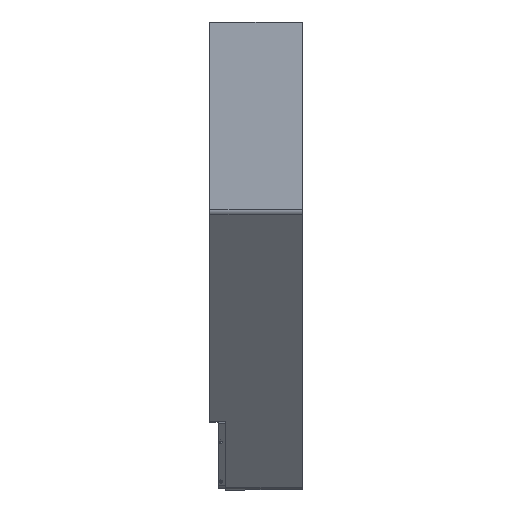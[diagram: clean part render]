
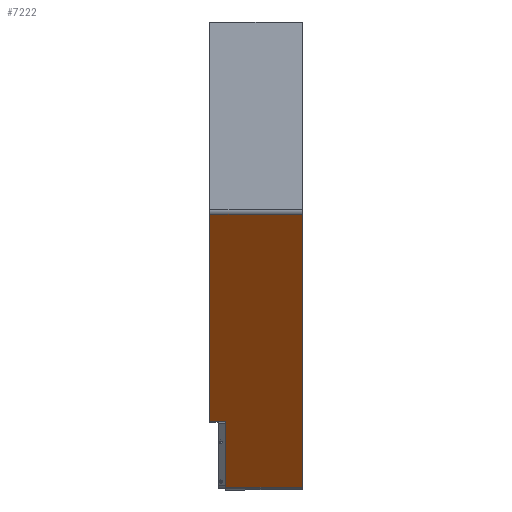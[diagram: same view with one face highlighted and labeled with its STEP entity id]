
A CAD part, left-side view. The second image highlights one B-rep face of the part: STEP entity #7222.
In plain terms, the highlighted planar face has unit normal (-0.766, 0, -0.643).
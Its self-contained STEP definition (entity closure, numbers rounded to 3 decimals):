
#373 = EDGE_CURVE ( 'NONE', #11244, #16651, #16970, .T. ) ;
#470 = EDGE_LOOP ( 'NONE', ( #13524, #13726, #13830, #14235, #14320, #14448, #14574, #14781 ) ) ;
#694 = EDGE_CURVE ( 'NONE', #17877, #11453, #18002, .T. ) ;
#856 = CARTESIAN_POINT ( 'NONE',  ( 246.136, 0., -559.313 ) ) ;
#989 = DIRECTION ( 'NONE',  ( 0., -1., 0. ) ) ;
#990 = CARTESIAN_POINT ( 'NONE',  ( 322.992, -130., -650.907 ) ) ;
#1549 = EDGE_CURVE ( 'NONE', #11453, #17193, #11652, .T. ) ;
#1806 = DIRECTION ( 'NONE',  ( 0.643, 0., -0.766 ) ) ;
#1865 = CARTESIAN_POINT ( 'NONE',  ( 3.753, -0.5, -270.453 ) ) ;
#2483 = CARTESIAN_POINT ( 'NONE',  ( 322.992, -22.5, -650.907 ) ) ;
#3485 = EDGE_CURVE ( 'NONE', #6377, #11244, #16936, .T. ) ;
#5012 = DIRECTION ( 'NONE',  ( 0., 1., 0. ) ) ;
#5945 = DIRECTION ( 'NONE',  ( -0.643, 0., 0.766 ) ) ;
#6142 = DIRECTION ( 'NONE',  ( -0.766, 0., -0.643 ) ) ;
#6377 = VERTEX_POINT ( 'NONE', #14650 ) ;
#6633 = PLANE ( 'NONE',  #10092 ) ;
#7161 = DIRECTION ( 'NONE',  ( 0.643, 0., -0.766 ) ) ;
#7203 = CARTESIAN_POINT ( 'NONE',  ( 3.753, -22.5, -270.453 ) ) ;
#7222 = ADVANCED_FACE ( 'NONE', ( #16052 ), #6633, .T. ) ;
#7594 = CARTESIAN_POINT ( 'NONE',  ( 3.753, -130., -270.453 ) ) ;
#7901 = EDGE_CURVE ( 'NONE', #20041, #16651, #11967, .T. ) ;
#7987 = DIRECTION ( 'NONE',  ( 0.643, 0., -0.766 ) ) ;
#8168 = CARTESIAN_POINT ( 'NONE',  ( 2.34, 486.233, -268.768 ) ) ;
#8596 = CARTESIAN_POINT ( 'NONE',  ( 211.47, -1.194, -518. ) ) ;
#8688 = CARTESIAN_POINT ( 'NONE',  ( 3.753, 486.233, -270.453 ) ) ;
#8827 = VECTOR ( 'NONE', #5012, 1000. ) ;
#8884 = LINE ( 'NONE', #8168, #8827 ) ;
#9058 = DIRECTION ( 'NONE',  ( 0., 1., 0. ) ) ;
#9528 = CARTESIAN_POINT ( 'NONE',  ( 322.992, -130., -650.907 ) ) ;
#9725 = CARTESIAN_POINT ( 'NONE',  ( 322.992, -22.5, -650.907 ) ) ;
#10092 = AXIS2_PLACEMENT_3D ( 'NONE', #8688, #6142, #5945 ) ;
#10477 = EDGE_CURVE ( 'NONE', #17193, #16941, #11205, .T. ) ;
#10558 = CARTESIAN_POINT ( 'NONE',  ( 246.136, 0., -559.313 ) ) ;
#11205 = LINE ( 'NONE', #18588, #11260 ) ;
#11244 = VERTEX_POINT ( 'NONE', #2483 ) ;
#11260 = VECTOR ( 'NONE', #18117, 1000. ) ;
#11453 = VERTEX_POINT ( 'NONE', #16248 ) ;
#11483 = VECTOR ( 'NONE', #9058, 1000. ) ;
#11652 = LINE ( 'NONE', #8596, #11483 ) ;
#11951 = VECTOR ( 'NONE', #7987, 1000. ) ;
#11967 = LINE ( 'NONE', #7594, #11951 ) ;
#13524 = ORIENTED_EDGE ( 'NONE', *, *, #694, .T. ) ;
#13726 = ORIENTED_EDGE ( 'NONE', *, *, #1549, .T. ) ;
#13830 = ORIENTED_EDGE ( 'NONE', *, *, #10477, .T. ) ;
#13883 = EDGE_CURVE ( 'NONE', #20041, #17877, #8884, .T. ) ;
#14235 = ORIENTED_EDGE ( 'NONE', *, *, #19216, .T. ) ;
#14320 = ORIENTED_EDGE ( 'NONE', *, *, #3485, .T. ) ;
#14448 = ORIENTED_EDGE ( 'NONE', *, *, #373, .T. ) ;
#14574 = ORIENTED_EDGE ( 'NONE', *, *, #7901, .F. ) ;
#14650 = CARTESIAN_POINT ( 'NONE',  ( 246.136, -22.5, -559.313 ) ) ;
#14781 = ORIENTED_EDGE ( 'NONE', *, *, #13883, .T. ) ;
#15455 = CARTESIAN_POINT ( 'NONE',  ( 322.992, -58.333, -650.907 ) ) ;
#15529 = CARTESIAN_POINT ( 'NONE',  ( 322.992, -94.167, -650.907 ) ) ;
#15580 = CARTESIAN_POINT ( 'NONE',  ( 211.47, 0., -518. ) ) ;
#16052 = FACE_OUTER_BOUND ( 'NONE', #470, .T. ) ;
#16248 = CARTESIAN_POINT ( 'NONE',  ( 211.47, -0.5, -518. ) ) ;
#16651 = VERTEX_POINT ( 'NONE', #9528 ) ;
#16936 = LINE ( 'NONE', #7203, #16975 ) ;
#16941 = VERTEX_POINT ( 'NONE', #10558 ) ;
#16970 = B_SPLINE_CURVE_WITH_KNOTS ( 'NONE', 3,
 ( #9725, #15455, #15529, #990 ),
 .UNSPECIFIED., .F., .F.,
 ( 4, 4 ),
 ( 0., 1. ),
 .UNSPECIFIED. ) ;
#16975 = VECTOR ( 'NONE', #7161, 1000. ) ;
#17193 = VERTEX_POINT ( 'NONE', #15580 ) ;
#17522 = VECTOR ( 'NONE', #1806, 1000. ) ;
#17595 = CARTESIAN_POINT ( 'NONE',  ( 2.34, -0.5, -268.768 ) ) ;
#17648 = CARTESIAN_POINT ( 'NONE',  ( 2.34, -130., -268.768 ) ) ;
#17877 = VERTEX_POINT ( 'NONE', #17595 ) ;
#18002 = LINE ( 'NONE', #1865, #17522 ) ;
#18117 = DIRECTION ( 'NONE',  ( 0.643, 0., -0.766 ) ) ;
#18588 = CARTESIAN_POINT ( 'NONE',  ( 246.403, 0., -559.631 ) ) ;
#19117 = VECTOR ( 'NONE', #989, 1000. ) ;
#19178 = LINE ( 'NONE', #856, #19117 ) ;
#19216 = EDGE_CURVE ( 'NONE', #16941, #6377, #19178, .T. ) ;
#20041 = VERTEX_POINT ( 'NONE', #17648 ) ;
